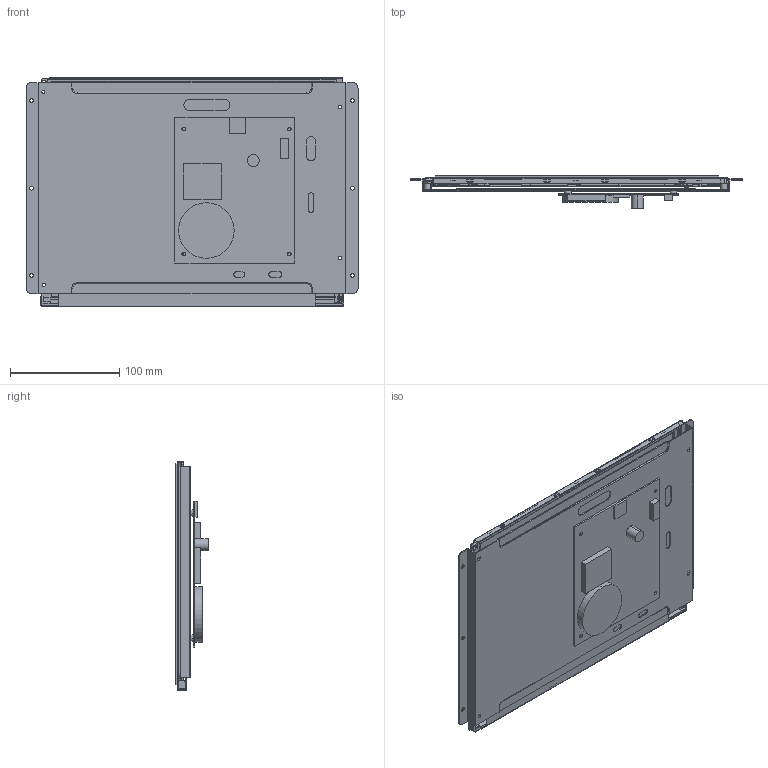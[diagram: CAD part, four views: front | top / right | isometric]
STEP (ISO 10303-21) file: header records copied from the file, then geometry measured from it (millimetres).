
FILE_DESCRIPTION((''),'2;1');
FILE_NAME('DMG80600C121-03WTR','2020-01-03T',('Administrator'),(''),'PRO/ENGINEER BY PARAMETRIC TECHNOLOGY CORPORATION, 2014320','PRO/ENGINEER BY PARAMETRIC TECHNOLOGY CORPORATION, 2014320','');
FILE_SCHEMA(('CONFIG_CONTROL_DESIGN','SHAPE_APPEARANCE_LAYERS_GROUPS'));
Length unit declared in the file: millimetre
Products named in the file (1): DMG80600C121-03WTR
Bounding box: 303.6 x 29.33 x 209.1 mm (x, y, z)
Volume: 212036.8 mm3; surface area: 336909.9 mm2
Topology: 12 solids, 12 shells, 1253 faces, 3405 edges, 2185 vertices
Faces by surface type: plane 821, cylinder 341, torus 54, bspline 26, sphere 10, extrusion 1
Entity records: 39893 total; most frequent: CARTESIAN_POINT 7525, ORIENTED_EDGE 6790, DIRECTION 6586, EDGE_CURVE 3395, VECTOR 2558, LINE 2557, VERTEX_POINT 2185, AXIS2_PLACEMENT_3D 2014
